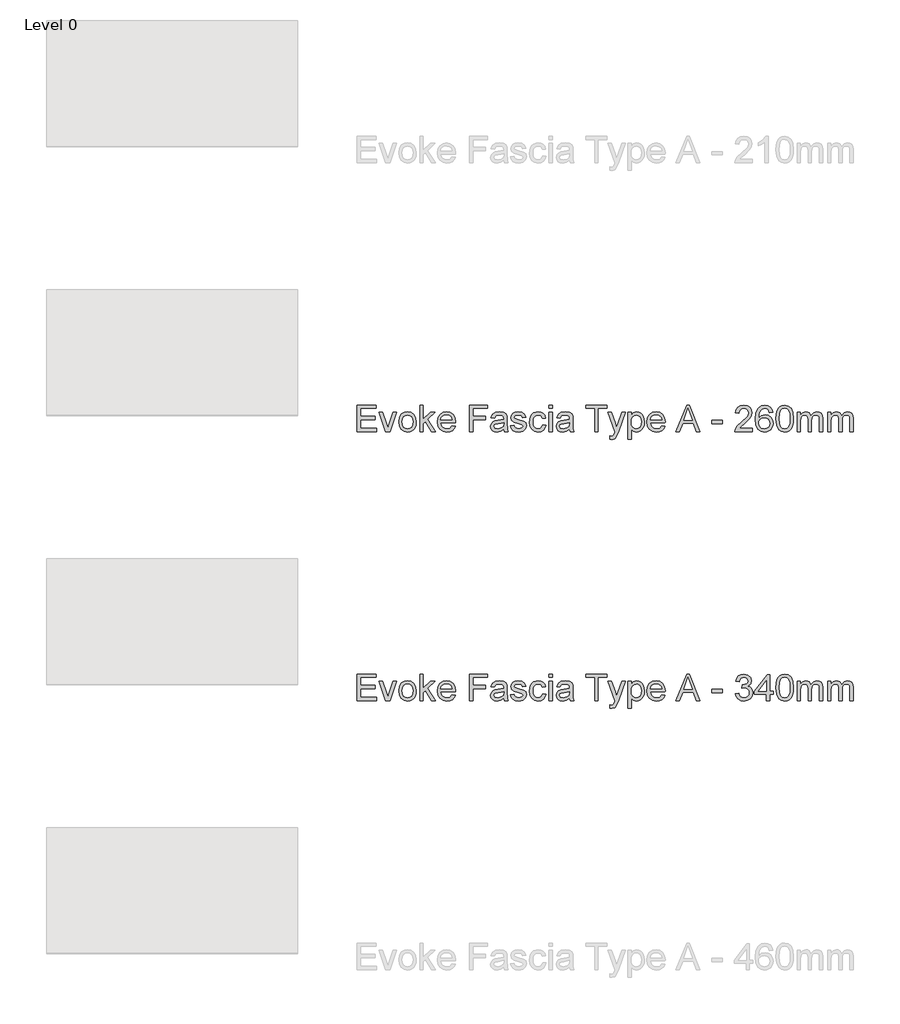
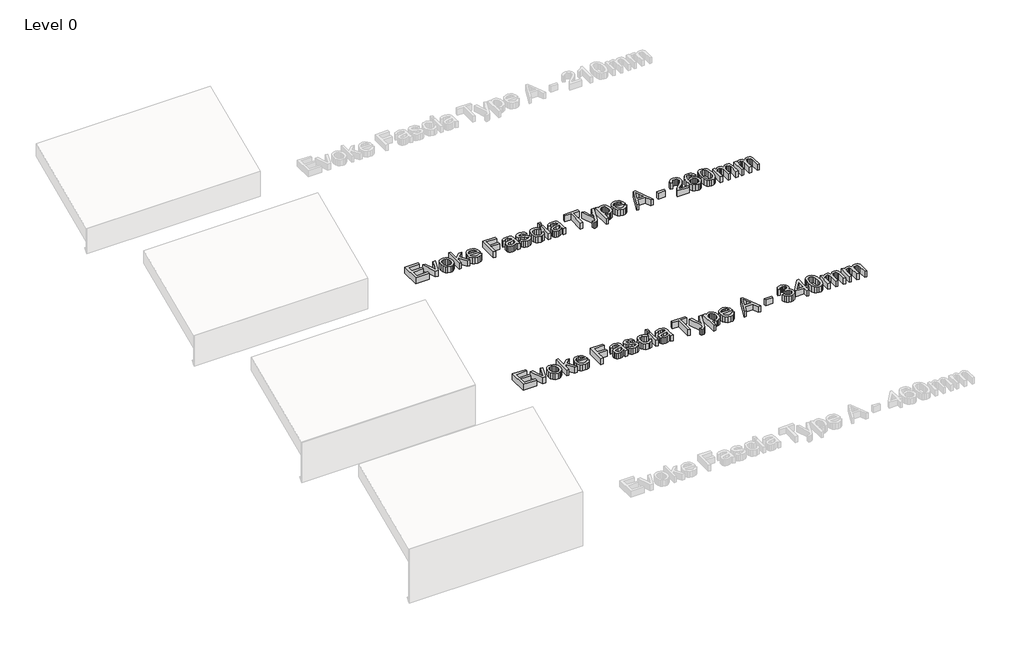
# One storey, part 5 of 13: 2 proxies.
"""IFC4 building model written with IfcOpenShell, lengths in millimetres."""

from ifc_helpers import new_model, si_unit, origin, origin_with_axes, place, context, project, spatial, polyline, outline, extrude, element, save

model = new_model("IFC4")

# Units and contexts
model_context = context("Model", 3, world=origin())
ifc_project = project(units=[si_unit("LENGTHUNIT", "METRE", prefix="MILLI")], contexts=[model_context])

# Site, building, storey
site = spatial("IfcSite", under=ifc_project)
building = spatial("IfcBuilding", under=site)
storey = spatial("IfcBuildingStorey", under=building, Name="Level 0", Elevation=0.0)

# Proxies
placement = place(None, origin())
element("IfcBuildingElementProxy", 1, Name="150mm Arial", ObjectType="150mm Arial", at=placement, inside=storey, context=model_context, shape_type="SweptSolid", body=[
    extrude(outline(polyline([(-1431.2798957, 2860.6682311), (-1431.2798957, 3008.3605388), (-1325.1260496, 3008.3605388), (-1325.1260496, 2989.8990003), (-1412.8183573, 2989.8990003), (-1412.8183573, 2946.0528465), (-1329.7414342, 2946.0528465), (-1329.7414342, 2927.591308), (-1412.8183573, 2927.591308), (-1412.8183573, 2879.1297695), (-1322.8183573, 2879.1297695), (-1322.8183573, 2860.6682311), (-1431.2798957, 2860.6682311)])), origin_with_axes(), (0.0, 0.0, 1.0), 50.0),
    extrude(outline(polyline([(-1270.823165, 2860.6682311), (-1308.9722034, 2969.1297695), (-1289.4289342, 2969.1297695), (-1266.3159534, 2904.153808), (-1259.3568188, 2882.3028465), (-1252.541915, 2902.9278465), (-1229.2847034, 2969.1297695), (-1209.7414342, 2969.1297695), (-1247.4217226, 2860.6682311), (-1270.823165, 2860.6682311)])), origin_with_axes(), (0.0, 0.0, 1.0), 50.0),
    extrude(outline(polyline([(-1198.2029726, 2914.8990003), (-1194.2095832, 2941.0498416), (-1182.229415, 2959.4302503), (-1167.4277323, 2968.435659), (-1149.7053765, 2971.4374618), (-1130.3108452, 2967.7821133), (-1114.8195592, 2956.8160676), (-1104.6648116, 2939.4047094), (-1101.2798957, 2916.4134234), (-1102.77629, 2897.762582), (-1107.2654726, 2883.5648657), (-1114.6167347, 2872.9323537), (-1124.6993669, 2864.9771253), (-1136.6750279, 2860.0146854), (-1149.7053765, 2858.3605388), (-1169.3342827, 2862.0023657), (-1184.80754, 2872.9278465), (-1194.8541145, 2890.7042888), (-1198.2029726, 2914.8990003)]), holes=[polyline([(-1179.7414342, 2914.935058), (-1177.6050159, 2898.2268248), (-1171.1957611, 2886.3232791), (-1161.5503284, 2879.1973777), (-1149.7053765, 2876.8220772), (-1137.9145111, 2879.2108993), (-1128.2871073, 2886.3773657), (-1121.8778525, 2898.4386638), (-1119.7414342, 2915.5119811), (-1121.8913741, 2931.7334354), (-1128.3411938, 2943.4747215), (-1137.9821193, 2950.6006229), (-1149.7053765, 2952.9759234), (-1161.5503284, 2950.6096373), (-1171.1957611, 2943.5107791), (-1177.6050159, 2931.6342767), (-1179.7414342, 2914.935058)])]), origin_with_axes(), (0.0, 0.0, 1.0), 50.0),
    extrude(outline(polyline([(-1080.510665, 2860.6682311), (-1080.510665, 3008.3605388), (-1062.0491265, 3008.3605388), (-1062.0491265, 2928.997558), (-1020.6548957, 2969.1297695), (-995.1260496, 2969.1297695), (-1037.025088, 2928.4927503), (-992.8183573, 2860.6682311), (-1014.3808573, 2860.6682311), (-1050.2582611, 2915.6562118), (-1062.0491265, 2904.2259234), (-1062.0491265, 2860.6682311), (-1080.510665, 2860.6682311)])), origin_with_axes(), (0.0, 0.0, 1.0), 50.0),
    extrude(outline(polyline([(-900.7270111, 2892.9759234), (-882.6260496, 2890.6682311), (-889.1479847, 2877.029409), (-899.5551361, 2866.8340965), (-913.6131289, 2860.4789282), (-931.087588, 2858.3605388), (-952.7492467, 2862.0158873), (-969.416915, 2872.981933), (-980.0449198, 2890.5465364), (-983.587588, 2913.997558), (-980.0088621, 2938.2373416), (-969.2726842, 2956.3653465), (-952.8303765, 2967.669433), (-932.1332611, 2971.4374618), (-912.080677, 2967.6784474), (-896.05754, 2956.4014041), (-885.5512299, 2938.309457), (-882.0491265, 2914.1057311), (-882.1572996, 2909.1297695), (-965.1260496, 2909.1297695), (-961.9304366, 2895.310659), (-954.5070592, 2885.1514041), (-943.7934174, 2878.904409), (-930.7270111, 2876.8220772), (-912.6260496, 2880.6802503), (-900.7270111, 2892.9759234)]), holes=[polyline([(-965.1260496, 2927.591308), (-900.510665, 2927.591308), (-903.0076601, 2937.3449138), (-907.9024919, 2944.3220772), (-918.665713, 2950.8124618), (-932.2053765, 2952.9759234), (-944.6497876, 2951.2496614), (-954.9397515, 2946.0708753), (-962.0926962, 2937.9984594), (-965.1260496, 2927.591308)])]), origin_with_axes(), (0.0, 0.0, 1.0), 50.0),
    extrude(outline(polyline([(-803.587588, 2860.6682311), (-803.587588, 3008.3605388), (-704.3568188, 3008.3605388), (-704.3568188, 2989.8990003), (-785.1260496, 2989.8990003), (-785.1260496, 2946.0528465), (-715.8952803, 2946.0528465), (-715.8952803, 2927.591308), (-785.1260496, 2927.591308), (-785.1260496, 2860.6682311), (-803.587588, 2860.6682311)])), origin_with_axes(), (0.0, 0.0, 1.0), 50.0),
    extrude(outline(polyline([(-612.0491265, 2874.5143849), (-629.9517707, 2862.0023657), (-649.729415, 2858.3605388), (-665.1576001, 2860.5510436), (-676.5383092, 2867.122558), (-683.5560376, 2877.1015243), (-685.8952803, 2889.5143849), (-682.3616265, 2904.1177503), (-673.0767707, 2914.7187118), (-660.150088, 2920.7764041), (-644.1765303, 2923.5528465), (-612.1572996, 2929.8990003), (-612.0491265, 2934.0095772), (-613.3201601, 2942.2487599), (-617.1332611, 2947.6393849), (-625.6609053, 2951.6417888), (-637.541915, 2952.9759234), (-656.2197996, 2949.4242407), (-665.1260496, 2936.8220772), (-683.587588, 2939.1297695), (-675.6008092, 2957.1586157), (-659.5190784, 2967.7235195), (-635.1621073, 2971.4374618), (-612.7883092, 2968.1562118), (-600.150088, 2959.9170291), (-594.4890303, 2947.3869811), (-593.587588, 2931.2331349), (-593.587588, 2908.2643849), (-592.650088, 2876.1910676), (-588.9722034, 2860.6682311), (-607.4337419, 2860.6682311), (-612.0491265, 2874.5143849)]), holes=[polyline([(-612.0491265, 2911.4374618), (-641.8327803, 2905.7764041), (-657.7161938, 2902.7836157), (-664.9097034, 2897.9158272), (-667.4337419, 2890.8124618), (-661.9349438, 2880.8244811), (-645.7991265, 2876.8220772), (-627.1212419, 2881.2391445), (-615.0779726, 2891.9302503), (-612.1572996, 2906.2090965), (-612.0491265, 2911.4374618)])]), origin_with_axes(), (0.0, 0.0, 1.0), 50.0),
    extrude(outline(polyline([(-575.1260496, 2892.9759234), (-556.6645111, 2895.2836157), (-553.7528525, 2887.3869811), (-548.118838, 2881.5816926), (-528.5395111, 2876.8220772), (-509.7173957, 2881.185058), (-503.587588, 2891.4254426), (-509.7534534, 2899.7187118), (-528.7558573, 2904.9831349), (-556.556338, 2914.0155868), (-568.6897515, 2924.5624618), (-572.8183573, 2939.4542888), (-569.5010496, 2953.2102984), (-560.4505688, 2963.7211157), (-548.71379, 2969.1838561), (-532.8303765, 2971.4374618), (-510.3664342, 2967.8136638), (-496.087588, 2958.0059715), (-489.7414342, 2941.4374618), (-508.2029726, 2939.1297695), (-515.1440784, 2949.3160676), (-531.3880688, 2952.9759234), (-549.056338, 2949.4783272), (-554.3568188, 2941.3292888), (-552.1572996, 2935.9566926), (-545.2702803, 2931.8821734), (-529.368838, 2927.9518849), (-502.2714823, 2919.2619811), (-489.6873476, 2909.4182311), (-485.1260496, 2893.372558), (-490.4806169, 2875.7042888), (-505.931338, 2862.8857791), (-528.791915, 2858.3605388), (-547.4066986, 2860.5420291), (-560.9914342, 2867.0865003), (-570.0599438, 2877.9218368), (-575.1260496, 2892.9759234)])), origin_with_axes(), (0.0, 0.0, 1.0), 50.0),
    extrude(outline(polyline([(-395.1260496, 2899.8990003), (-376.6645111, 2897.591308), (-381.8117467, 2881.1715364), (-391.4842226, 2868.763183), (-404.7714823, 2860.9611998), (-420.7630688, 2858.3605388), (-440.4009895, 2861.9888441), (-455.7570592, 2872.8737599), (-465.6684174, 2890.5375219), (-468.9722034, 2914.5023657), (-463.3291746, 2945.169433), (-456.2077803, 2956.6673296), (-446.1296553, 2964.8749618), (-434.0728645, 2969.7968368), (-421.0154726, 2971.4374618), (-405.4160135, 2969.1838561), (-392.9445592, 2962.4230388), (-383.9977443, 2951.5155868), (-378.9722034, 2936.8220772), (-397.4337419, 2934.5143849), (-405.9974438, 2948.3425099), (-420.8712419, 2952.9759234), (-432.8018308, 2950.6952743), (-442.2714823, 2943.8533272), (-448.4508693, 2932.0804907), (-450.510665, 2915.0071734), (-448.4959414, 2897.7039883), (-442.4517707, 2885.8905868), (-433.1533933, 2879.0892046), (-421.3760496, 2876.8220772), (-411.8162539, 2878.2373416), (-403.978213, 2882.4831349), (-398.2765904, 2889.6676301), (-395.1260496, 2899.8990003)])), origin_with_axes(), (0.0, 0.0, 1.0), 50.0),
    extrude(outline(polyline([(-360.510665, 2989.8990003), (-360.510665, 3008.3605388), (-342.0491265, 3008.3605388), (-342.0491265, 2989.8990003), (-360.510665, 2989.8990003)])), origin_with_axes(), (0.0, 0.0, 1.0), 50.0),
    extrude(outline(polyline([(-360.510665, 2860.6682311), (-360.510665, 2969.1297695), (-342.0491265, 2969.1297695), (-342.0491265, 2860.6682311), (-360.510665, 2860.6682311)])), origin_with_axes(), (0.0, 0.0, 1.0), 50.0),
    extrude(outline(polyline([(-245.1260496, 2874.5143849), (-263.0286938, 2862.0023657), (-282.806338, 2858.3605388), (-298.2345231, 2860.5510436), (-309.6152323, 2867.122558), (-316.6329606, 2877.1015243), (-318.9722034, 2889.5143849), (-315.4385496, 2904.1177503), (-306.1536938, 2914.7187118), (-293.2270111, 2920.7764041), (-277.2534534, 2923.5528465), (-245.2342226, 2929.8990003), (-245.1260496, 2934.0095772), (-246.3970832, 2942.2487599), (-250.2101842, 2947.6393849), (-258.7378284, 2951.6417888), (-270.618838, 2952.9759234), (-289.2967226, 2949.4242407), (-298.2029726, 2936.8220772), (-316.6645111, 2939.1297695), (-308.6777323, 2957.1586157), (-292.5960015, 2967.7235195), (-268.2390303, 2971.4374618), (-245.8652323, 2968.1562118), (-233.2270111, 2959.9170291), (-227.5659534, 2947.3869811), (-226.6645111, 2931.2331349), (-226.6645111, 2908.2643849), (-225.7270111, 2876.1910676), (-222.0491265, 2860.6682311), (-240.510665, 2860.6682311), (-245.1260496, 2874.5143849)]), holes=[polyline([(-245.1260496, 2911.4374618), (-274.9097034, 2905.7764041), (-290.7931169, 2902.7836157), (-297.9866265, 2897.9158272), (-300.510665, 2890.8124618), (-295.0118669, 2880.8244811), (-278.8760496, 2876.8220772), (-260.198165, 2881.2391445), (-248.1548957, 2891.9302503), (-245.2342226, 2906.2090965), (-245.1260496, 2911.4374618)])]), origin_with_axes(), (0.0, 0.0, 1.0), 50.0),
    extrude(outline(polyline([(-104.3568188, 2860.6682311), (-104.3568188, 2989.8990003), (-152.8183573, 2989.8990003), (-152.8183573, 3008.3605388), (-37.4337419, 3008.3605388), (-37.4337419, 2989.8990003), (-85.8952803, 2989.8990003), (-85.8952803, 2860.6682311), (-104.3568188, 2860.6682311)])), origin_with_axes(), (0.0, 0.0, 1.0), 50.0),
    extrude(outline(polyline([(-18.9722034, 2819.1297695), (-21.2798957, 2836.9062118), (-11.9048957, 2835.2836157), (-3.1428765, 2837.3208753), (2.2297197, 2842.9999618), (7.2777966, 2856.5937118), (8.7201043, 2861.0648657), (-30.510665, 2969.1297695), (-11.0395111, 2969.1297695), (9.7657774, 2908.9134234), (17.0133735, 2884.8268849), (24.2609697, 2906.1009234), (45.6431812, 2969.1297695), (64.9701043, 2969.1297695), (27.2177004, 2858.0720772), (17.4100081, 2833.9855388), (6.7008735, 2820.9687118), (-7.6861457, 2816.8220772), (-18.9722034, 2819.1297695)])), origin_with_axes(), (0.0, 0.0, 1.0), 50.0),
    extrude(outline(polyline([(80.2585658, 2819.1297695), (80.2585658, 2969.1297695), (98.7201043, 2969.1297695), (98.7201043, 2951.028808), (111.4845274, 2966.3352984), (128.7201043, 2971.4374618), (141.2050802, 2969.6526061), (152.1215466, 2964.2980388), (161.0097677, 2955.6982791), (167.4100081, 2944.1778465), (172.5662581, 2915.7283272), (171.1104288, 2899.9395652), (166.7429408, 2885.8184715), (159.6035177, 2874.0816926), (149.8318831, 2865.4458753), (138.451174, 2860.1318729), (126.4845274, 2858.3605388), (110.4208254, 2863.1021253), (98.7201043, 2875.091308), (98.7201043, 2819.1297695), (80.2585658, 2819.1297695)]), holes=[polyline([(98.7201043, 2914.0336157), (100.716799, 2897.4831349), (106.7068831, 2885.9086157), (115.5455249, 2879.0937118), (126.0878927, 2876.8220772), (136.8015346, 2879.1748416), (145.865537, 2886.2331349), (152.044924, 2898.231332), (154.1047197, 2915.403808), (152.0945033, 2931.8641445), (146.0638543, 2943.6009234), (137.2387341, 2950.6321734), (126.8451043, 2952.9759234), (116.4109096, 2950.4834354), (107.2477485, 2943.0059715), (100.8520153, 2930.7779066), (98.7201043, 2914.0336157)])]), origin_with_axes(), (0.0, 0.0, 1.0), 50.0),
    extrude(outline(polyline([(269.2729889, 2892.9759234), (287.3739504, 2890.6682311), (280.8520153, 2877.029409), (270.4448639, 2866.8340965), (256.3868711, 2860.4789282), (238.912412, 2858.3605388), (217.2507533, 2862.0158873), (200.583085, 2872.981933), (189.9550802, 2890.5465364), (186.412412, 2913.997558), (189.9911379, 2938.2373416), (200.7273158, 2956.3653465), (217.1696235, 2967.669433), (237.8667389, 2971.4374618), (257.919323, 2967.6784474), (273.94246, 2956.4014041), (284.4487701, 2938.309457), (287.9508735, 2914.1057311), (287.8427004, 2909.1297695), (204.8739504, 2909.1297695), (208.0695634, 2895.310659), (215.4929408, 2885.1514041), (226.2065826, 2878.904409), (239.2729889, 2876.8220772), (257.3739504, 2880.6802503), (269.2729889, 2892.9759234)]), holes=[polyline([(204.8739504, 2927.591308), (269.489335, 2927.591308), (266.9923399, 2937.3449138), (262.0975081, 2944.3220772), (251.334287, 2950.8124618), (237.7946235, 2952.9759234), (225.3502124, 2951.2496614), (215.0602485, 2946.0708753), (207.9073038, 2937.9984594), (204.8739504, 2927.591308)])]), origin_with_axes(), (0.0, 0.0, 1.0), 50.0),
    extrude(outline(polyline([(349.2128927, 2860.6682311), (408.1672197, 3008.3605388), (423.8883735, 3008.3605388), (482.8427004, 2860.6682311), (463.3354889, 2860.6682311), (446.4244312, 2906.8220772), (385.5951043, 2906.8220772), (368.7201043, 2860.6682311), (349.2128927, 2860.6682311)]), holes=[polyline([(392.3739504, 2925.2836157), (439.6816427, 2925.2836157), (426.3763543, 2961.5937118), (416.0277966, 2989.8990003), (406.833085, 2964.7667888), (392.3739504, 2925.2836157)])]), origin_with_axes(), (0.0, 0.0, 1.0), 50.0),
    extrude(outline(polyline([(548.7201043, 2904.5143849), (548.7201043, 2922.9759234), (606.412412, 2922.9759234), (606.412412, 2904.5143849), (548.7201043, 2904.5143849)])), origin_with_axes(), (0.0, 0.0, 1.0), 50.0),
    extrude(outline(polyline([(774.8739504, 2879.1297695), (774.8739504, 2860.6682311), (677.9508735, 2860.6682311), (679.9340466, 2873.3965965), (691.1479889, 2892.9939522), (714.2609697, 2914.3941926), (746.1359697, 2945.1514041), (752.1125322, 2955.7523657), (754.1047197, 2966.0648657), (752.2252124, 2975.3091566), (746.5866908, 2982.9939522), (737.919323, 2988.1727383), (726.9532774, 2989.8990003), (715.4373519, 2988.2133032), (706.490537, 2983.1562118), (700.716799, 2975.1243609), (698.7201043, 2964.5143849), (680.2585658, 2966.8220772), (684.7342269, 2984.6796493), (694.41121, 2997.7235195), (708.7847076, 3005.701284), (727.349912, 3008.3605388), (746.0503326, 3005.403808), (760.396787, 2996.5336157), (769.5238903, 2983.2824138), (772.5662581, 2967.1826541), (769.2850081, 2949.6766445), (758.3775562, 2931.575683), (731.9292389, 2906.2812118), (710.6912581, 2888.5227984), (702.3619312, 2879.1297695), (774.8739504, 2879.1297695)])), origin_with_axes(), (0.0, 0.0, 1.0), 50.0),
    extrude(outline(polyline([(887.9508735, 2969.1297695), (869.489335, 2966.8220772), (862.4941427, 2982.2187118), (854.1197437, 2987.9789282), (843.9965466, 2989.8990003), (827.3378927, 2985.4278465), (814.7357293, 2968.6429907), (810.9091067, 2954.8914883), (809.489335, 2935.7403465), (825.7693831, 2950.4699138), (845.943662, 2955.2836157), (862.9989504, 2951.9933513), (877.3138543, 2942.122558), (887.0223879, 2927.0414282), (890.2585658, 2908.1201541), (888.7351283, 2894.9005027), (884.1648158, 2882.6453945), (876.9262341, 2872.2517647), (867.3979889, 2864.6165484), (856.0127725, 2859.9245412), (843.2032774, 2858.3605388), (822.2582653, 2862.5071734), (805.5770754, 2874.9470772), (794.6651163, 2896.9062118), (791.0277966, 2929.6105388), (795.0662581, 2966.3803705), (807.1816427, 2991.5215965), (823.7231091, 3004.1508032), (845.1503927, 3008.3605388), (861.349311, 3005.7553705), (874.3210658, 2997.9398657), (883.4076043, 2985.5270051), (887.9508735, 2969.1297695)]), holes=[polyline([(809.489335, 2908.4086157), (813.7621716, 2892.4170291), (825.1203447, 2880.8064522), (841.7609697, 2876.8220772), (853.9439624, 2878.8863801), (863.521787, 2885.0792888), (869.7282173, 2894.8148657), (871.7970274, 2907.5071734), (869.7552605, 2919.6901662), (863.62996, 2928.9795291), (853.8898759, 2934.8614402), (841.0037581, 2936.8220772), (828.8387942, 2934.8614402), (818.6660177, 2928.9795291), (811.7835057, 2919.9155267), (809.489335, 2908.4086157)])]), origin_with_axes(), (0.0, 0.0, 1.0), 50.0),
    extrude(outline(polyline([(906.412412, 2933.3244811), (907.7690826, 2956.9648056), (911.8390947, 2975.8184715), (918.5818831, 2990.1739402), (927.9568831, 3000.3196734), (940.0317028, 3006.3503224), (954.8739504, 3008.3605388), (976.4364504, 3003.6009234), (991.3282774, 2989.8809715), (999.9821235, 2968.0300099), (1003.3354889, 2933.3244811), (1001.9923399, 2909.8193729), (997.9628927, 2891.0107791), (991.2606692, 2876.6417888), (981.8991908, 2866.4554907), (969.7973278, 2860.3842767), (954.8739504, 2858.3605388), (935.6912581, 2861.8761638), (921.1239504, 2872.4230388), (910.0902966, 2897.4020051), (906.412412, 2933.3244811)]), holes=[polyline([(924.8739504, 2933.3605388), (927.037412, 2904.3205748), (933.5277966, 2887.513183), (943.1912581, 2879.4948537), (954.8739504, 2876.8220772), (966.5566427, 2879.5038681), (976.2201043, 2887.5492407), (982.7104889, 2904.3656469), (984.8739504, 2933.3605388), (982.7826043, 2961.746957), (976.5085658, 2978.685058), (966.8631331, 2987.0955147), (954.6576043, 2989.8990003), (943.1011139, 2987.4290484), (933.8162581, 2980.0191926), (927.1095274, 2962.0264041), (924.8739504, 2933.3605388)])]), origin_with_axes(), (0.0, 0.0, 1.0), 50.0),
    extrude(outline(polyline([(1024.1047197, 2860.6682311), (1024.1047197, 2969.1297695), (1042.5662581, 2969.1297695), (1042.5662581, 2951.2812118), (1055.2585658, 2965.9026061), (1073.3234697, 2971.4374618), (1083.5908975, 2970.0267046), (1091.8210658, 2965.794433), (1101.989335, 2949.9831349), (1116.3943831, 2966.0738801), (1134.5854889, 2971.4374618), (1148.4631932, 2969.2063921), (1158.7261139, 2962.513183), (1165.0677605, 2951.177546), (1167.1816427, 2935.0191926), (1167.1816427, 2860.6682311), (1148.7201043, 2860.6682311), (1148.7201043, 2927.0865003), (1147.0073639, 2942.5011638), (1140.8054408, 2950.091308), (1130.2585658, 2952.9759234), (1120.2570634, 2951.1279666), (1112.1035177, 2945.5840965), (1106.6813423, 2935.965707), (1104.8739504, 2921.8941926), (1104.8739504, 2860.6682311), (1086.412412, 2860.6682311), (1086.412412, 2929.1417888), (1082.1395754, 2947.0264041), (1076.5010538, 2951.4885436), (1068.131162, 2952.9759234), (1054.4652966, 2949.0095772), (1045.3787581, 2937.3990003), (1042.5662581, 2915.3677503), (1042.5662581, 2860.6682311), (1024.1047197, 2860.6682311)])), origin_with_axes(), (0.0, 0.0, 1.0), 50.0),
    extrude(outline(polyline([(1194.8739504, 2860.6682311), (1194.8739504, 2969.1297695), (1213.3354889, 2969.1297695), (1213.3354889, 2951.2812118), (1226.0277966, 2965.9026061), (1244.0927004, 2971.4374618), (1254.3601283, 2970.0267046), (1262.5902966, 2965.794433), (1272.7585658, 2949.9831349), (1287.1636139, 2966.0738801), (1305.3547197, 2971.4374618), (1319.232424, 2969.2063921), (1329.4953447, 2962.513183), (1335.8369913, 2951.177546), (1337.9508735, 2935.0191926), (1337.9508735, 2860.6682311), (1319.489335, 2860.6682311), (1319.489335, 2927.0865003), (1317.7765947, 2942.5011638), (1311.5746716, 2950.091308), (1301.0277966, 2952.9759234), (1291.0262942, 2951.1279666), (1282.8727485, 2945.5840965), (1277.450573, 2935.965707), (1275.6431812, 2921.8941926), (1275.6431812, 2860.6682311), (1257.1816427, 2860.6682311), (1257.1816427, 2929.1417888), (1252.9088062, 2947.0264041), (1247.2702846, 2951.4885436), (1238.9003927, 2952.9759234), (1225.2345274, 2949.0095772), (1216.1479889, 2937.3990003), (1213.3354889, 2915.3677503), (1213.3354889, 2860.6682311), (1194.8739504, 2860.6682311)])), origin_with_axes(), (0.0, 0.0, 1.0), 50.0),
])
element("IfcBuildingElementProxy", 2, Name="150mm Arial", ObjectType="150mm Arial", at=placement, inside=storey, context=model_context, shape_type="SweptSolid", body=[
    extrude(outline(polyline([(-1431.2798957, 1360.6682311), (-1431.2798957, 1508.3605388), (-1325.1260496, 1508.3605388), (-1325.1260496, 1489.8990003), (-1412.8183573, 1489.8990003), (-1412.8183573, 1446.0528465), (-1329.7414342, 1446.0528465), (-1329.7414342, 1427.591308), (-1412.8183573, 1427.591308), (-1412.8183573, 1379.1297695), (-1322.8183573, 1379.1297695), (-1322.8183573, 1360.6682311), (-1431.2798957, 1360.6682311)])), origin_with_axes(), (0.0, 0.0, 1.0), 50.0),
    extrude(outline(polyline([(-1270.823165, 1360.6682311), (-1308.9722034, 1469.1297695), (-1289.4289342, 1469.1297695), (-1266.3159534, 1404.153808), (-1259.3568188, 1382.3028465), (-1252.541915, 1402.9278465), (-1229.2847034, 1469.1297695), (-1209.7414342, 1469.1297695), (-1247.4217226, 1360.6682311), (-1270.823165, 1360.6682311)])), origin_with_axes(), (0.0, 0.0, 1.0), 50.0),
    extrude(outline(polyline([(-1198.2029726, 1414.8990003), (-1194.2095832, 1441.0498416), (-1182.229415, 1459.4302503), (-1167.4277323, 1468.435659), (-1149.7053765, 1471.4374618), (-1130.3108452, 1467.7821133), (-1114.8195592, 1456.8160676), (-1104.6648116, 1439.4047094), (-1101.2798957, 1416.4134234), (-1102.77629, 1397.762582), (-1107.2654726, 1383.5648657), (-1114.6167347, 1372.9323537), (-1124.6993669, 1364.9771253), (-1136.6750279, 1360.0146854), (-1149.7053765, 1358.3605388), (-1169.3342827, 1362.0023657), (-1184.80754, 1372.9278465), (-1194.8541145, 1390.7042888), (-1198.2029726, 1414.8990003)]), holes=[polyline([(-1179.7414342, 1414.935058), (-1177.6050159, 1398.2268248), (-1171.1957611, 1386.3232791), (-1161.5503284, 1379.1973777), (-1149.7053765, 1376.8220772), (-1137.9145111, 1379.2108993), (-1128.2871073, 1386.3773657), (-1121.8778525, 1398.4386638), (-1119.7414342, 1415.5119811), (-1121.8913741, 1431.7334354), (-1128.3411938, 1443.4747215), (-1137.9821193, 1450.6006229), (-1149.7053765, 1452.9759234), (-1161.5503284, 1450.6096373), (-1171.1957611, 1443.5107791), (-1177.6050159, 1431.6342767), (-1179.7414342, 1414.935058)])]), origin_with_axes(), (0.0, 0.0, 1.0), 50.0),
    extrude(outline(polyline([(-1080.510665, 1360.6682311), (-1080.510665, 1508.3605388), (-1062.0491265, 1508.3605388), (-1062.0491265, 1428.997558), (-1020.6548957, 1469.1297695), (-995.1260496, 1469.1297695), (-1037.025088, 1428.4927503), (-992.8183573, 1360.6682311), (-1014.3808573, 1360.6682311), (-1050.2582611, 1415.6562118), (-1062.0491265, 1404.2259234), (-1062.0491265, 1360.6682311), (-1080.510665, 1360.6682311)])), origin_with_axes(), (0.0, 0.0, 1.0), 50.0),
    extrude(outline(polyline([(-900.7270111, 1392.9759234), (-882.6260496, 1390.6682311), (-889.1479847, 1377.029409), (-899.5551361, 1366.8340965), (-913.6131289, 1360.4789282), (-931.087588, 1358.3605388), (-952.7492467, 1362.0158873), (-969.416915, 1372.981933), (-980.0449198, 1390.5465364), (-983.587588, 1413.997558), (-980.0088621, 1438.2373416), (-969.2726842, 1456.3653465), (-952.8303765, 1467.669433), (-932.1332611, 1471.4374618), (-912.080677, 1467.6784474), (-896.05754, 1456.4014041), (-885.5512299, 1438.309457), (-882.0491265, 1414.1057311), (-882.1572996, 1409.1297695), (-965.1260496, 1409.1297695), (-961.9304366, 1395.310659), (-954.5070592, 1385.1514041), (-943.7934174, 1378.904409), (-930.7270111, 1376.8220772), (-912.6260496, 1380.6802503), (-900.7270111, 1392.9759234)]), holes=[polyline([(-965.1260496, 1427.591308), (-900.510665, 1427.591308), (-903.0076601, 1437.3449138), (-907.9024919, 1444.3220772), (-918.665713, 1450.8124618), (-932.2053765, 1452.9759234), (-944.6497876, 1451.2496614), (-954.9397515, 1446.0708753), (-962.0926962, 1437.9984594), (-965.1260496, 1427.591308)])]), origin_with_axes(), (0.0, 0.0, 1.0), 50.0),
    extrude(outline(polyline([(-803.587588, 1360.6682311), (-803.587588, 1508.3605388), (-704.3568188, 1508.3605388), (-704.3568188, 1489.8990003), (-785.1260496, 1489.8990003), (-785.1260496, 1446.0528465), (-715.8952803, 1446.0528465), (-715.8952803, 1427.591308), (-785.1260496, 1427.591308), (-785.1260496, 1360.6682311), (-803.587588, 1360.6682311)])), origin_with_axes(), (0.0, 0.0, 1.0), 50.0),
    extrude(outline(polyline([(-612.0491265, 1374.5143849), (-629.9517707, 1362.0023657), (-649.729415, 1358.3605388), (-665.1576001, 1360.5510436), (-676.5383092, 1367.122558), (-683.5560376, 1377.1015243), (-685.8952803, 1389.5143849), (-682.3616265, 1404.1177503), (-673.0767707, 1414.7187118), (-660.150088, 1420.7764041), (-644.1765303, 1423.5528465), (-612.1572996, 1429.8990003), (-612.0491265, 1434.0095772), (-613.3201601, 1442.2487599), (-617.1332611, 1447.6393849), (-625.6609053, 1451.6417888), (-637.541915, 1452.9759234), (-656.2197996, 1449.4242407), (-665.1260496, 1436.8220772), (-683.587588, 1439.1297695), (-675.6008092, 1457.1586157), (-659.5190784, 1467.7235195), (-635.1621073, 1471.4374618), (-612.7883092, 1468.1562118), (-600.150088, 1459.9170291), (-594.4890303, 1447.3869811), (-593.587588, 1431.2331349), (-593.587588, 1408.2643849), (-592.650088, 1376.1910676), (-588.9722034, 1360.6682311), (-607.4337419, 1360.6682311), (-612.0491265, 1374.5143849)]), holes=[polyline([(-612.0491265, 1411.4374618), (-641.8327803, 1405.7764041), (-657.7161938, 1402.7836157), (-664.9097034, 1397.9158272), (-667.4337419, 1390.8124618), (-661.9349438, 1380.8244811), (-645.7991265, 1376.8220772), (-627.1212419, 1381.2391445), (-615.0779726, 1391.9302503), (-612.1572996, 1406.2090965), (-612.0491265, 1411.4374618)])]), origin_with_axes(), (0.0, 0.0, 1.0), 50.0),
    extrude(outline(polyline([(-575.1260496, 1392.9759234), (-556.6645111, 1395.2836157), (-553.7528525, 1387.3869811), (-548.118838, 1381.5816926), (-528.5395111, 1376.8220772), (-509.7173957, 1381.185058), (-503.587588, 1391.4254426), (-509.7534534, 1399.7187118), (-528.7558573, 1404.9831349), (-556.556338, 1414.0155868), (-568.6897515, 1424.5624618), (-572.8183573, 1439.4542888), (-569.5010496, 1453.2102984), (-560.4505688, 1463.7211157), (-548.71379, 1469.1838561), (-532.8303765, 1471.4374618), (-510.3664342, 1467.8136638), (-496.087588, 1458.0059715), (-489.7414342, 1441.4374618), (-508.2029726, 1439.1297695), (-515.1440784, 1449.3160676), (-531.3880688, 1452.9759234), (-549.056338, 1449.4783272), (-554.3568188, 1441.3292888), (-552.1572996, 1435.9566926), (-545.2702803, 1431.8821734), (-529.368838, 1427.9518849), (-502.2714823, 1419.2619811), (-489.6873476, 1409.4182311), (-485.1260496, 1393.372558), (-490.4806169, 1375.7042888), (-505.931338, 1362.8857791), (-528.791915, 1358.3605388), (-547.4066986, 1360.5420291), (-560.9914342, 1367.0865003), (-570.0599438, 1377.9218368), (-575.1260496, 1392.9759234)])), origin_with_axes(), (0.0, 0.0, 1.0), 50.0),
    extrude(outline(polyline([(-395.1260496, 1399.8990003), (-376.6645111, 1397.591308), (-381.8117467, 1381.1715364), (-391.4842226, 1368.763183), (-404.7714823, 1360.9611998), (-420.7630688, 1358.3605388), (-440.4009895, 1361.9888441), (-455.7570592, 1372.8737599), (-465.6684174, 1390.5375219), (-468.9722034, 1414.5023657), (-463.3291746, 1445.169433), (-456.2077803, 1456.6673296), (-446.1296553, 1464.8749618), (-434.0728645, 1469.7968368), (-421.0154726, 1471.4374618), (-405.4160135, 1469.1838561), (-392.9445592, 1462.4230388), (-383.9977443, 1451.5155868), (-378.9722034, 1436.8220772), (-397.4337419, 1434.5143849), (-405.9974438, 1448.3425099), (-420.8712419, 1452.9759234), (-432.8018308, 1450.6952743), (-442.2714823, 1443.8533272), (-448.4508693, 1432.0804907), (-450.510665, 1415.0071734), (-448.4959414, 1397.7039883), (-442.4517707, 1385.8905868), (-433.1533933, 1379.0892046), (-421.3760496, 1376.8220772), (-411.8162539, 1378.2373416), (-403.978213, 1382.4831349), (-398.2765904, 1389.6676301), (-395.1260496, 1399.8990003)])), origin_with_axes(), (0.0, 0.0, 1.0), 50.0),
    extrude(outline(polyline([(-360.510665, 1489.8990003), (-360.510665, 1508.3605388), (-342.0491265, 1508.3605388), (-342.0491265, 1489.8990003), (-360.510665, 1489.8990003)])), origin_with_axes(), (0.0, 0.0, 1.0), 50.0),
    extrude(outline(polyline([(-360.510665, 1360.6682311), (-360.510665, 1469.1297695), (-342.0491265, 1469.1297695), (-342.0491265, 1360.6682311), (-360.510665, 1360.6682311)])), origin_with_axes(), (0.0, 0.0, 1.0), 50.0),
    extrude(outline(polyline([(-245.1260496, 1374.5143849), (-263.0286938, 1362.0023657), (-282.806338, 1358.3605388), (-298.2345231, 1360.5510436), (-309.6152323, 1367.122558), (-316.6329606, 1377.1015243), (-318.9722034, 1389.5143849), (-315.4385496, 1404.1177503), (-306.1536938, 1414.7187118), (-293.2270111, 1420.7764041), (-277.2534534, 1423.5528465), (-245.2342226, 1429.8990003), (-245.1260496, 1434.0095772), (-246.3970832, 1442.2487599), (-250.2101842, 1447.6393849), (-258.7378284, 1451.6417888), (-270.618838, 1452.9759234), (-289.2967226, 1449.4242407), (-298.2029726, 1436.8220772), (-316.6645111, 1439.1297695), (-308.6777323, 1457.1586157), (-292.5960015, 1467.7235195), (-268.2390303, 1471.4374618), (-245.8652323, 1468.1562118), (-233.2270111, 1459.9170291), (-227.5659534, 1447.3869811), (-226.6645111, 1431.2331349), (-226.6645111, 1408.2643849), (-225.7270111, 1376.1910676), (-222.0491265, 1360.6682311), (-240.510665, 1360.6682311), (-245.1260496, 1374.5143849)]), holes=[polyline([(-245.1260496, 1411.4374618), (-274.9097034, 1405.7764041), (-290.7931169, 1402.7836157), (-297.9866265, 1397.9158272), (-300.510665, 1390.8124618), (-295.0118669, 1380.8244811), (-278.8760496, 1376.8220772), (-260.198165, 1381.2391445), (-248.1548957, 1391.9302503), (-245.2342226, 1406.2090965), (-245.1260496, 1411.4374618)])]), origin_with_axes(), (0.0, 0.0, 1.0), 50.0),
    extrude(outline(polyline([(-104.3568188, 1360.6682311), (-104.3568188, 1489.8990003), (-152.8183573, 1489.8990003), (-152.8183573, 1508.3605388), (-37.4337419, 1508.3605388), (-37.4337419, 1489.8990003), (-85.8952803, 1489.8990003), (-85.8952803, 1360.6682311), (-104.3568188, 1360.6682311)])), origin_with_axes(), (0.0, 0.0, 1.0), 50.0),
    extrude(outline(polyline([(-18.9722034, 1319.1297695), (-21.2798957, 1336.9062118), (-11.9048957, 1335.2836157), (-3.1428765, 1337.3208753), (2.2297197, 1342.9999618), (7.2777966, 1356.5937118), (8.7201043, 1361.0648657), (-30.510665, 1469.1297695), (-11.0395111, 1469.1297695), (9.7657774, 1408.9134234), (17.0133735, 1384.8268849), (24.2609697, 1406.1009234), (45.6431812, 1469.1297695), (64.9701043, 1469.1297695), (27.2177004, 1358.0720772), (17.4100081, 1333.9855388), (6.7008735, 1320.9687118), (-7.6861457, 1316.8220772), (-18.9722034, 1319.1297695)])), origin_with_axes(), (0.0, 0.0, 1.0), 50.0),
    extrude(outline(polyline([(80.2585658, 1319.1297695), (80.2585658, 1469.1297695), (98.7201043, 1469.1297695), (98.7201043, 1451.028808), (111.4845274, 1466.3352984), (128.7201043, 1471.4374618), (141.2050802, 1469.6526061), (152.1215466, 1464.2980388), (161.0097677, 1455.6982791), (167.4100081, 1444.1778465), (172.5662581, 1415.7283272), (171.1104288, 1399.9395652), (166.7429408, 1385.8184715), (159.6035177, 1374.0816926), (149.8318831, 1365.4458753), (138.451174, 1360.1318729), (126.4845274, 1358.3605388), (110.4208254, 1363.1021253), (98.7201043, 1375.091308), (98.7201043, 1319.1297695), (80.2585658, 1319.1297695)]), holes=[polyline([(98.7201043, 1414.0336157), (100.716799, 1397.4831349), (106.7068831, 1385.9086157), (115.5455249, 1379.0937118), (126.0878927, 1376.8220772), (136.8015346, 1379.1748416), (145.865537, 1386.2331349), (152.044924, 1398.231332), (154.1047197, 1415.403808), (152.0945033, 1431.8641445), (146.0638543, 1443.6009234), (137.2387341, 1450.6321734), (126.8451043, 1452.9759234), (116.4109096, 1450.4834354), (107.2477485, 1443.0059715), (100.8520153, 1430.7779066), (98.7201043, 1414.0336157)])]), origin_with_axes(), (0.0, 0.0, 1.0), 50.0),
    extrude(outline(polyline([(269.2729889, 1392.9759234), (287.3739504, 1390.6682311), (280.8520153, 1377.029409), (270.4448639, 1366.8340965), (256.3868711, 1360.4789282), (238.912412, 1358.3605388), (217.2507533, 1362.0158873), (200.583085, 1372.981933), (189.9550802, 1390.5465364), (186.412412, 1413.997558), (189.9911379, 1438.2373416), (200.7273158, 1456.3653465), (217.1696235, 1467.669433), (237.8667389, 1471.4374618), (257.919323, 1467.6784474), (273.94246, 1456.4014041), (284.4487701, 1438.309457), (287.9508735, 1414.1057311), (287.8427004, 1409.1297695), (204.8739504, 1409.1297695), (208.0695634, 1395.310659), (215.4929408, 1385.1514041), (226.2065826, 1378.904409), (239.2729889, 1376.8220772), (257.3739504, 1380.6802503), (269.2729889, 1392.9759234)]), holes=[polyline([(204.8739504, 1427.591308), (269.489335, 1427.591308), (266.9923399, 1437.3449138), (262.0975081, 1444.3220772), (251.334287, 1450.8124618), (237.7946235, 1452.9759234), (225.3502124, 1451.2496614), (215.0602485, 1446.0708753), (207.9073038, 1437.9984594), (204.8739504, 1427.591308)])]), origin_with_axes(), (0.0, 0.0, 1.0), 50.0),
    extrude(outline(polyline([(349.2128927, 1360.6682311), (408.1672197, 1508.3605388), (423.8883735, 1508.3605388), (482.8427004, 1360.6682311), (463.3354889, 1360.6682311), (446.4244312, 1406.8220772), (385.5951043, 1406.8220772), (368.7201043, 1360.6682311), (349.2128927, 1360.6682311)]), holes=[polyline([(392.3739504, 1425.2836157), (439.6816427, 1425.2836157), (426.3763543, 1461.5937118), (416.0277966, 1489.8990003), (406.833085, 1464.7667888), (392.3739504, 1425.2836157)])]), origin_with_axes(), (0.0, 0.0, 1.0), 50.0),
    extrude(outline(polyline([(548.7201043, 1404.5143849), (548.7201043, 1422.9759234), (606.412412, 1422.9759234), (606.412412, 1404.5143849), (548.7201043, 1404.5143849)])), origin_with_axes(), (0.0, 0.0, 1.0), 50.0),
    extrude(outline(polyline([(680.2585658, 1399.8990003), (698.7201043, 1402.2066926), (702.8532173, 1390.6051301), (708.9064024, 1382.7715965), (717.1771355, 1378.309457), (727.9628927, 1376.8220772), (740.6191427, 1378.8683513), (750.3907774, 1385.0071734), (756.6377725, 1394.1658272), (758.7201043, 1405.2715965), (756.6558014, 1415.8139642), (750.4628927, 1424.3641445), (741.0878927, 1430.0297094), (729.4773158, 1431.9182311), (716.5326043, 1429.8990003), (718.5878927, 1448.3605388), (721.5446235, 1448.1441926), (742.4941427, 1453.4446734), (749.4713062, 1460.169433), (751.7970274, 1469.7427503), (750.1113302, 1477.7160075), (745.0542389, 1484.1838561), (737.3378927, 1488.4702142), (727.6744312, 1489.8990003), (717.9929408, 1488.4566926), (710.0782774, 1484.1297695), (704.3000322, 1476.9182311), (701.0277966, 1466.8220772), (682.5662581, 1469.1297695), (688.0019552, 1485.7072936), (697.6744312, 1498.0840965), (710.9076043, 1505.7914282), (727.0253927, 1508.3605388), (749.2910177, 1503.294433), (764.8679408, 1489.4482791), (770.2585658, 1470.8244811), (765.1383735, 1453.8052503), (749.9941427, 1441.5816926), (761.5506331, 1436.9122215), (770.114335, 1428.9615003), (775.4148158, 1418.1622215), (777.1816427, 1404.9470772), (773.6479889, 1386.9542888), (763.0470274, 1371.9182311), (747.0464264, 1361.7499618), (727.3138543, 1358.3605388), (709.4652966, 1361.2541686), (694.9340466, 1369.935058), (684.8288783, 1383.2133032), (680.2585658, 1399.8990003)])), origin_with_axes(), (0.0, 0.0, 1.0), 50.0),
    extrude(outline(polyline([(853.3354889, 1360.6682311), (853.3354889, 1395.2836157), (786.412412, 1395.2836157), (786.412412, 1413.7451541), (857.9508735, 1506.0528465), (871.7970274, 1506.0528465), (871.7970274, 1413.7451541), (890.2585658, 1413.7451541), (890.2585658, 1395.2836157), (871.7970274, 1395.2836157), (871.7970274, 1360.6682311), (853.3354889, 1360.6682311)]), holes=[polyline([(853.3354889, 1413.7451541), (853.3354889, 1470.7884234), (809.1287581, 1413.7451541), (853.3354889, 1413.7451541)])]), origin_with_axes(), (0.0, 0.0, 1.0), 50.0),
    extrude(outline(polyline([(906.412412, 1433.3244811), (907.7690826, 1456.9648056), (911.8390947, 1475.8184715), (918.5818831, 1490.1739402), (927.9568831, 1500.3196734), (940.0317028, 1506.3503224), (954.8739504, 1508.3605388), (976.4364504, 1503.6009234), (991.3282774, 1489.8809715), (999.9821235, 1468.0300099), (1003.3354889, 1433.3244811), (1001.9923399, 1409.8193729), (997.9628927, 1391.0107791), (991.2606692, 1376.6417888), (981.8991908, 1366.4554907), (969.7973278, 1360.3842767), (954.8739504, 1358.3605388), (935.6912581, 1361.8761638), (921.1239504, 1372.4230388), (910.0902966, 1397.4020051), (906.412412, 1433.3244811)]), holes=[polyline([(924.8739504, 1433.3605388), (927.037412, 1404.3205748), (933.5277966, 1387.513183), (943.1912581, 1379.4948537), (954.8739504, 1376.8220772), (966.5566427, 1379.5038681), (976.2201043, 1387.5492407), (982.7104889, 1404.3656469), (984.8739504, 1433.3605388), (982.7826043, 1461.746957), (976.5085658, 1478.685058), (966.8631331, 1487.0955147), (954.6576043, 1489.8990003), (943.1011139, 1487.4290484), (933.8162581, 1480.0191926), (927.1095274, 1462.0264041), (924.8739504, 1433.3605388)])]), origin_with_axes(), (0.0, 0.0, 1.0), 50.0),
    extrude(outline(polyline([(1024.1047197, 1360.6682311), (1024.1047197, 1469.1297695), (1042.5662581, 1469.1297695), (1042.5662581, 1451.2812118), (1055.2585658, 1465.9026061), (1073.3234697, 1471.4374618), (1083.5908975, 1470.0267046), (1091.8210658, 1465.794433), (1101.989335, 1449.9831349), (1116.3943831, 1466.0738801), (1134.5854889, 1471.4374618), (1148.4631932, 1469.2063921), (1158.7261139, 1462.513183), (1165.0677605, 1451.177546), (1167.1816427, 1435.0191926), (1167.1816427, 1360.6682311), (1148.7201043, 1360.6682311), (1148.7201043, 1427.0865003), (1147.0073639, 1442.5011638), (1140.8054408, 1450.091308), (1130.2585658, 1452.9759234), (1120.2570634, 1451.1279666), (1112.1035177, 1445.5840965), (1106.6813423, 1435.965707), (1104.8739504, 1421.8941926), (1104.8739504, 1360.6682311), (1086.412412, 1360.6682311), (1086.412412, 1429.1417888), (1082.1395754, 1447.0264041), (1076.5010538, 1451.4885436), (1068.131162, 1452.9759234), (1054.4652966, 1449.0095772), (1045.3787581, 1437.3990003), (1042.5662581, 1415.3677503), (1042.5662581, 1360.6682311), (1024.1047197, 1360.6682311)])), origin_with_axes(), (0.0, 0.0, 1.0), 50.0),
    extrude(outline(polyline([(1194.8739504, 1360.6682311), (1194.8739504, 1469.1297695), (1213.3354889, 1469.1297695), (1213.3354889, 1451.2812118), (1226.0277966, 1465.9026061), (1244.0927004, 1471.4374618), (1254.3601283, 1470.0267046), (1262.5902966, 1465.794433), (1272.7585658, 1449.9831349), (1287.1636139, 1466.0738801), (1305.3547197, 1471.4374618), (1319.232424, 1469.2063921), (1329.4953447, 1462.513183), (1335.8369913, 1451.177546), (1337.9508735, 1435.0191926), (1337.9508735, 1360.6682311), (1319.489335, 1360.6682311), (1319.489335, 1427.0865003), (1317.7765947, 1442.5011638), (1311.5746716, 1450.091308), (1301.0277966, 1452.9759234), (1291.0262942, 1451.1279666), (1282.8727485, 1445.5840965), (1277.450573, 1435.965707), (1275.6431812, 1421.8941926), (1275.6431812, 1360.6682311), (1257.1816427, 1360.6682311), (1257.1816427, 1429.1417888), (1252.9088062, 1447.0264041), (1247.2702846, 1451.4885436), (1238.9003927, 1452.9759234), (1225.2345274, 1449.0095772), (1216.1479889, 1437.3990003), (1213.3354889, 1415.3677503), (1213.3354889, 1360.6682311), (1194.8739504, 1360.6682311)])), origin_with_axes(), (0.0, 0.0, 1.0), 50.0),
])

save(model, "model.ifc")
